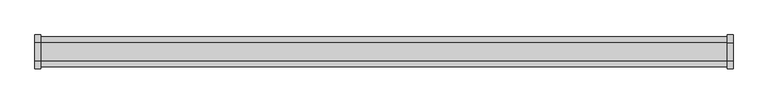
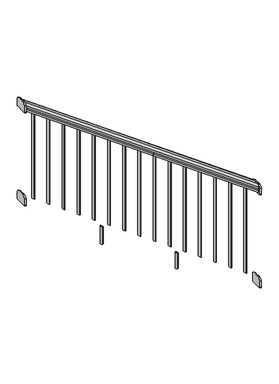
"""IFC4 building model written with IfcOpenShell, lengths in millimetres: railing geometry, NewTechWood - Westminister Gray."""

from ifc_helpers import new_model, si_unit, frame, origin, place, context, project, spatial, polyline, circle_curve, ellipse_curve, source, transform, mapped, element, save
from ifc_brep_helpers import plane_surface, cylinder_surface, revolved_surface, advanced_brep


def railing_2b7e7999(model_context):
    return source(origin(), model_context, "Body", "AdvancedBrep", [
        advanced_brep(
        [(-13507.1266255, 8333.6419817, 2521.0981601), (-13507.1266255, 8333.6419817, 2470.0210563), (-13507.1266255, 8330.0919817, 2465.6486493), (-13507.1266255, 8248.4019817, 2465.6486493), (-13507.1266255, 8244.8519817, 2470.0210563), (-13507.1266255, 8244.8519817, 2521.0981601), (-13507.1266255, 8264.5319817, 2545.3373065), (-13507.1266255, 8313.9619817, 2545.3373065), (-13492.1266255, 8313.9619817, 2534.5519407), (-13492.1266255, 8264.5319817, 2534.5519407), (-13492.1266255, 8244.8519817, 2510.3127942), (-13492.1266255, 8244.8519817, 2459.2356904), (-13492.1266255, 8248.4019817, 2454.8632834), (-13492.1266255, 8330.0919817, 2454.8632834), (-13492.1266255, 8333.6419817, 2459.2356904), (-13492.1266255, 8333.6419817, 2510.3127942)],
        [
            (0, 1),
            (1, 2, ellipse_curve(frame((-13507.1266255, 8330.0919817, 2470.0210563), z_axis=(-1.0, 0.0, 0.0), x_axis=(0.0, 0.0, -1.0)), 4.372407, 3.55)),
            (2, 3),
            (3, 4, ellipse_curve(frame((-13507.1266255, 8248.4019817, 2470.0210563), z_axis=(-1.0, 0.0, 0.0), x_axis=(0.0, 0.0, -1.0)), 4.372407, 3.55)),
            (4, 5),
            (5, 6, ellipse_curve(frame((-13507.1266255, 8264.5319817, 2521.0981601), z_axis=(-1.0, 0.0, 0.0), x_axis=(0.0, 0.0, -1.0)), 24.2391464, 19.68)),
            (6, 7),
            (7, 0, ellipse_curve(frame((-13507.1266255, 8313.9619817, 2521.0981601), z_axis=(-1.0, 0.0, 0.0), x_axis=(0.0, 0.0, -1.0)), 24.2391464, 19.68)),
            (8, 9),
            (9, 10, ellipse_curve(frame((-13492.1266255, 8264.5319817, 2510.3127942), z_axis=(1.0, 0.0, 0.0), x_axis=(0.0, 0.0, -1.0)), 24.2391464, 19.68)),
            (10, 11),
            (11, 12, ellipse_curve(frame((-13492.1266255, 8248.4019817, 2459.2356904), z_axis=(1.0, 0.0, 0.0), x_axis=(0.0, 0.0, -1.0)), 4.372407, 3.55)),
            (12, 13),
            (13, 14, ellipse_curve(frame((-13492.1266255, 8330.0919817, 2459.2356904), z_axis=(1.0, 0.0, 0.0), x_axis=(0.0, 0.0, -1.0)), 4.372407, 3.55)),
            (14, 15),
            (15, 8, ellipse_curve(frame((-13492.1266255, 8313.9619817, 2510.3127942), z_axis=(1.0, 0.0, 0.0), x_axis=(0.0, 0.0, -1.0)), 24.2391464, 19.68)),
            (15, 0),
            (7, 8),
            (14, 1),
            (13, 2),
            (12, 3),
            (11, 4),
            (10, 5),
            (9, 6),
        ],
        [
            plane_surface(frame((-13507.1266255, 8415.6017144, 1697.2264201), z_axis=(-1.0, 0.0, 0.0), x_axis=(0.0, -1.0, 0.0))),
            plane_surface(frame((-13492.1266255, 8415.6017144, 2679.4572038), z_axis=(1.0, 0.0, 0.0), x_axis=(0.0, -1.0, 0.0))),
            cylinder_surface(frame((-13456.5393171, 8313.9619817, 2484.7246515), z_axis=(0.8119097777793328, 0.0, -0.5837829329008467), x_axis=(-0.5837829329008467, 0.0, -0.8119097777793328)), 19.68),
            plane_surface(frame((-13456.5393171, 8333.6419817, 2484.7246515), z_axis=(0.0, 1.0, 0.0), x_axis=(-0.8119097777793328, 0.0, 0.5837829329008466))),
            cylinder_surface(frame((-13480.7487953, 8330.0919817, 2451.054753), z_axis=(0.8119097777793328, 0.0, -0.5837829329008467), x_axis=(-0.5837829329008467, 0.0, -0.8119097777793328)), 3.55),
            plane_surface(frame((-13482.8212247, 8330.0919817, 2448.1724733), z_axis=(-0.5837829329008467, 0.0, -0.8119097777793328), x_axis=(-0.8119097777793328, 0.0, 0.5837829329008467))),
            cylinder_surface(frame((-13480.7487953, 8248.4019817, 2451.054753), z_axis=(0.8119097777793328, 0.0, -0.5837829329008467), x_axis=(-0.5837829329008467, 0.0, -0.8119097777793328)), 3.55),
            plane_surface(frame((-13480.7487953, 8244.8519817, 2451.054753), z_axis=(0.0, -1.0, 0.0), x_axis=(-0.8119097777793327, 0.0, 0.5837829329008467))),
            cylinder_surface(frame((-13456.5393171, 8264.5319817, 2484.7246515), z_axis=(0.8119097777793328, 0.0, -0.5837829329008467), x_axis=(-0.5837829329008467, 0.0, -0.8119097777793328)), 19.68),
            plane_surface(frame((-13445.050469, 8264.5319817, 2500.7030359), z_axis=(0.5837829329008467, 0.0, 0.8119097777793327), x_axis=(-0.8119097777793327, 0.0, 0.5837829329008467))),
        ],
        [
            (0, [[1, 2, 3, 4, 5, 6, 7, 8]]),
            (1, [[9, 10, 11, 12, 13, 14, 15, 16]]),
            (2, [[-16, 17, -8, 18]]),
            (3, [[-15, 19, -1, -17]]),
            (4, [[-14, 20, -2, -19]]),
            (5, [[-13, 21, -3, -20]]),
            (6, [[-12, 22, -4, -21]]),
            (7, [[-11, 23, -5, -22]]),
            (8, [[-10, 24, -6, -23]]),
            (9, [[-7, -24, -9, -18]]),
        ],
    ),
        advanced_brep(
        [(-15306.1266255, 8313.9619817, 3838.8621846), (-15306.1266255, 8264.5319817, 3838.8621846), (-15306.1266255, 8244.8519817, 3814.6230381), (-15306.1266255, 8244.8519817, 3763.5459343), (-15306.1266255, 8248.4019817, 3759.1735273), (-15306.1266255, 8330.0919817, 3759.1735273), (-15306.1266255, 8333.6419817, 3763.5459343), (-15306.1266255, 8333.6419817, 3814.6230381), (-15321.1266255, 8333.6419817, 3825.408404), (-15321.1266255, 8333.6419817, 3774.3313002), (-15321.1266255, 8330.0919817, 3769.9588932), (-15321.1266255, 8248.4019817, 3769.9588932), (-15321.1266255, 8244.8519817, 3774.3313002), (-15321.1266255, 8244.8519817, 3825.408404), (-15321.1266255, 8264.5319817, 3849.6475504), (-15321.1266255, 8313.9619817, 3849.6475504)],
        [
            (0, 1),
            (1, 2, ellipse_curve(frame((-15306.1266255, 8264.5319817, 3814.6230381), z_axis=(1.0, 0.0, 0.0), x_axis=(0.0, 0.0, -1.0)), 24.2391464, 19.68)),
            (2, 3),
            (3, 4, ellipse_curve(frame((-15306.1266255, 8248.4019817, 3763.5459343), z_axis=(1.0, 0.0, 0.0), x_axis=(0.0, 0.0, -1.0)), 4.372407, 3.55)),
            (4, 5),
            (5, 6, ellipse_curve(frame((-15306.1266255, 8330.0919817, 3763.5459343), z_axis=(1.0, 0.0, 0.0), x_axis=(0.0, 0.0, -1.0)), 4.372407, 3.55)),
            (6, 7),
            (7, 0, ellipse_curve(frame((-15306.1266255, 8313.9619817, 3814.6230381), z_axis=(1.0, 0.0, 0.0), x_axis=(0.0, 0.0, -1.0)), 24.2391464, 19.68)),
            (8, 9),
            (9, 10, ellipse_curve(frame((-15321.1266255, 8330.0919817, 3774.3313002), z_axis=(-1.0, 0.0, 0.0), x_axis=(0.0, 0.0, -1.0)), 4.372407, 3.55)),
            (10, 11),
            (11, 12, ellipse_curve(frame((-15321.1266255, 8248.4019817, 3774.3313002), z_axis=(-1.0, 0.0, 0.0), x_axis=(0.0, 0.0, -1.0)), 4.372407, 3.55)),
            (12, 13),
            (13, 14, ellipse_curve(frame((-15321.1266255, 8264.5319817, 3825.408404), z_axis=(-1.0, 0.0, 0.0), x_axis=(0.0, 0.0, -1.0)), 24.2391464, 19.68)),
            (14, 15),
            (15, 8, ellipse_curve(frame((-15321.1266255, 8313.9619817, 3825.408404), z_axis=(-1.0, 0.0, 0.0), x_axis=(0.0, 0.0, -1.0)), 24.2391464, 19.68)),
            (7, 8),
            (15, 0),
            (6, 9),
            (5, 10),
            (4, 11),
            (3, 12),
            (2, 13),
            (1, 14),
        ],
        [
            plane_surface(frame((-15306.1266255, 8415.6017144, 3922.1842505), z_axis=(1.0, 0.0, 0.0), x_axis=(0.0, -1.0, 0.0))),
            plane_surface(frame((-15321.1266255, 8415.6017144, 2939.9534667), z_axis=(-1.0, 0.0, 0.0), x_axis=(0.0, -1.0, 0.0))),
            cylinder_surface(frame((-13456.5393171, 8313.9619817, 2484.7246515), z_axis=(0.8119097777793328, 0.0, -0.5837829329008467), x_axis=(-0.5837829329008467, 0.0, -0.8119097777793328)), 19.68),
            plane_surface(frame((-13456.5393171, 8333.6419817, 2484.7246515), z_axis=(0.0, 1.0, 0.0), x_axis=(-0.8119097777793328, 0.0, 0.5837829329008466))),
            cylinder_surface(frame((-13480.7487953, 8330.0919817, 2451.054753), z_axis=(0.8119097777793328, 0.0, -0.5837829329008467), x_axis=(-0.5837829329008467, 0.0, -0.8119097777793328)), 3.55),
            plane_surface(frame((-13482.8212247, 8330.0919817, 2448.1724733), z_axis=(-0.5837829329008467, 0.0, -0.8119097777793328), x_axis=(-0.8119097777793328, 0.0, 0.5837829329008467))),
            cylinder_surface(frame((-13480.7487953, 8248.4019817, 2451.054753), z_axis=(0.8119097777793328, 0.0, -0.5837829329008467), x_axis=(-0.5837829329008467, 0.0, -0.8119097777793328)), 3.55),
            plane_surface(frame((-13480.7487953, 8244.8519817, 2451.054753), z_axis=(0.0, -1.0, 0.0), x_axis=(-0.8119097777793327, 0.0, 0.5837829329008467))),
            cylinder_surface(frame((-13456.5393171, 8264.5319817, 2484.7246515), z_axis=(0.8119097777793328, 0.0, -0.5837829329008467), x_axis=(-0.5837829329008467, 0.0, -0.8119097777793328)), 19.68),
            plane_surface(frame((-13445.050469, 8264.5319817, 2500.7030359), z_axis=(0.5837829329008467, 0.0, 0.8119097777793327), x_axis=(-0.8119097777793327, 0.0, 0.5837829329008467))),
        ],
        [
            (0, [[1, 2, 3, 4, 5, 6, 7, 8]]),
            (1, [[9, 10, 11, 12, 13, 14, 15, 16]]),
            (2, [[-8, 17, -16, 18]]),
            (3, [[-7, 19, -9, -17]]),
            (4, [[-6, 20, -10, -19]]),
            (5, [[-5, 21, -11, -20]]),
            (6, [[-4, 22, -12, -21]]),
            (7, [[-3, 23, -13, -22]]),
            (8, [[-2, 24, -14, -23]]),
            (9, [[-15, -24, -1, -18]]),
        ],
    ),
        advanced_brep(
        [(-13507.1266255, 8313.9619817, 1786.3373065), (-13507.1266255, 8333.6419817, 1762.0981601), (-13507.1266255, 8333.6419817, 1711.0210563), (-13507.1266255, 8330.0919817, 1706.6486493), (-13507.1266255, 8248.4019817, 1706.6486493), (-13507.1266255, 8244.8519817, 1711.0210563), (-13507.1266255, 8244.8519817, 1762.0981601), (-13507.1266255, 8264.5319817, 1786.3373065), (-13492.1266255, 8264.5319817, 1775.5519407), (-13492.1266255, 8244.8519817, 1751.3127942), (-13492.1266255, 8244.8519817, 1700.2356904), (-13492.1266255, 8248.4019817, 1695.8632834), (-13492.1266255, 8330.0919817, 1695.8632834), (-13492.1266255, 8333.6419817, 1700.2356904), (-13492.1266255, 8333.6419817, 1751.3127942), (-13492.1266255, 8313.9619817, 1775.5519407)],
        [
            (0, 1, ellipse_curve(frame((-13507.1266255, 8313.9619817, 1762.0981601), z_axis=(-1.0, 0.0, 0.0), x_axis=(0.0, 0.0, -1.0)), 24.2391464, 19.68)),
            (1, 2),
            (2, 3, ellipse_curve(frame((-13507.1266255, 8330.0919817, 1711.0210563), z_axis=(-1.0, 0.0, 0.0), x_axis=(0.0, 0.0, -1.0)), 4.372407, 3.55)),
            (3, 4),
            (4, 5, ellipse_curve(frame((-13507.1266255, 8248.4019817, 1711.0210563), z_axis=(-1.0, 0.0, 0.0), x_axis=(0.0, 0.0, -1.0)), 4.372407, 3.55)),
            (5, 6),
            (6, 7, ellipse_curve(frame((-13507.1266255, 8264.5319817, 1762.0981601), z_axis=(-1.0, 0.0, 0.0), x_axis=(0.0, 0.0, -1.0)), 24.2391464, 19.68)),
            (7, 0),
            (8, 9, ellipse_curve(frame((-13492.1266255, 8264.5319817, 1751.3127942), z_axis=(1.0, 0.0, 0.0), x_axis=(0.0, 0.0, -1.0)), 24.2391464, 19.68)),
            (9, 10),
            (10, 11, ellipse_curve(frame((-13492.1266255, 8248.4019817, 1700.2356904), z_axis=(1.0, 0.0, 0.0), x_axis=(0.0, 0.0, -1.0)), 4.372407, 3.55)),
            (11, 12),
            (12, 13, ellipse_curve(frame((-13492.1266255, 8330.0919817, 1700.2356904), z_axis=(1.0, 0.0, 0.0), x_axis=(0.0, 0.0, -1.0)), 4.372407, 3.55)),
            (13, 14),
            (14, 15, ellipse_curve(frame((-13492.1266255, 8313.9619817, 1751.3127942), z_axis=(1.0, 0.0, 0.0), x_axis=(0.0, 0.0, -1.0)), 24.2391464, 19.68)),
            (15, 8),
            (15, 0),
            (7, 8),
            (14, 1),
            (13, 2),
            (12, 3),
            (11, 4),
            (10, 5),
            (9, 6),
        ],
        [
            plane_surface(frame((-13507.1266255, 8415.6017144, 1697.2264201), z_axis=(-1.0, 0.0, 0.0), x_axis=(0.0, -1.0, 0.0))),
            plane_surface(frame((-13492.1266255, 8415.6017144, 2679.4572038), z_axis=(1.0, 0.0, 0.0), x_axis=(0.0, -1.0, 0.0))),
            plane_surface(frame((-13447.5313883, 8264.5319817, 1743.4868775), z_axis=(0.5837829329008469, 0.0, 0.8119097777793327), x_axis=(-0.8119097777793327, 0.0, 0.5837829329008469))),
            cylinder_surface(frame((-13459.0202364, 8313.9619817, 1727.508493), z_axis=(0.8119097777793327, 0.0, -0.5837829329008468), x_axis=(-0.5837829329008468, 0.0, -0.8119097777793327)), 19.68),
            plane_surface(frame((-13459.0202364, 8333.6419817, 1727.508493), z_axis=(0.0, 1.0000000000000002, 0.0), x_axis=(-0.8119097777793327, 0.0, 0.5837829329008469))),
            cylinder_surface(frame((-13483.2297147, 8330.0919817, 1693.8385946), z_axis=(0.8119097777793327, 0.0, -0.5837829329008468), x_axis=(-0.5837829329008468, 0.0, -0.8119097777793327)), 3.55),
            plane_surface(frame((-13485.3021441, 8330.0919817, 1690.9563148), z_axis=(-0.5837829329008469, 0.0, -0.8119097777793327), x_axis=(-0.8119097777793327, 0.0, 0.5837829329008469))),
            cylinder_surface(frame((-13483.2297147, 8248.4019817, 1693.8385946), z_axis=(0.8119097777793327, 0.0, -0.5837829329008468), x_axis=(-0.5837829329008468, 0.0, -0.8119097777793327)), 3.55),
            plane_surface(frame((-13483.2297147, 8244.8519817, 1693.8385946), z_axis=(0.0, -1.0000000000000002, 0.0), x_axis=(-0.8119097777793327, 0.0, 0.5837829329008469))),
            cylinder_surface(frame((-13459.0202364, 8264.5319817, 1727.508493), z_axis=(0.8119097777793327, 0.0, -0.5837829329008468), x_axis=(-0.5837829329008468, 0.0, -0.8119097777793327)), 19.68),
        ],
        [
            (0, [[1, 2, 3, 4, 5, 6, 7, 8]]),
            (1, [[9, 10, 11, 12, 13, 14, 15, 16]]),
            (2, [[-16, 17, -8, 18]]),
            (3, [[-15, 19, -1, -17]]),
            (4, [[-14, 20, -2, -19]]),
            (5, [[-13, 21, -3, -20]]),
            (6, [[-12, 22, -4, -21]]),
            (7, [[-11, 23, -5, -22]]),
            (8, [[-10, 24, -6, -23]]),
            (9, [[-7, -24, -9, -18]]),
        ],
    ),
        advanced_brep(
        [(-15306.1266255, 8264.5319817, 3079.8621846), (-15306.1266255, 8244.8519817, 3055.6230381), (-15306.1266255, 8244.8519817, 3004.5459343), (-15306.1266255, 8248.4019817, 3000.1735273), (-15306.1266255, 8330.0919817, 3000.1735273), (-15306.1266255, 8333.6419817, 3004.5459343), (-15306.1266255, 8333.6419817, 3055.6230381), (-15306.1266255, 8313.9619817, 3079.8621846), (-15321.1266255, 8313.9619817, 3090.6475504), (-15321.1266255, 8333.6419817, 3066.408404), (-15321.1266255, 8333.6419817, 3015.3313002), (-15321.1266255, 8330.0919817, 3010.9588932), (-15321.1266255, 8248.4019817, 3010.9588932), (-15321.1266255, 8244.8519817, 3015.3313002), (-15321.1266255, 8244.8519817, 3066.408404), (-15321.1266255, 8264.5319817, 3090.6475504)],
        [
            (0, 1, ellipse_curve(frame((-15306.1266255, 8264.5319817, 3055.6230381), z_axis=(1.0, 0.0, 0.0), x_axis=(0.0, 0.0, -1.0)), 24.2391464, 19.68)),
            (1, 2),
            (2, 3, ellipse_curve(frame((-15306.1266255, 8248.4019817, 3004.5459343), z_axis=(1.0, 0.0, 0.0), x_axis=(0.0, 0.0, -1.0)), 4.372407, 3.55)),
            (3, 4),
            (4, 5, ellipse_curve(frame((-15306.1266255, 8330.0919817, 3004.5459343), z_axis=(1.0, 0.0, 0.0), x_axis=(0.0, 0.0, -1.0)), 4.372407, 3.55)),
            (5, 6),
            (6, 7, ellipse_curve(frame((-15306.1266255, 8313.9619817, 3055.6230381), z_axis=(1.0, 0.0, 0.0), x_axis=(0.0, 0.0, -1.0)), 24.2391464, 19.68)),
            (7, 0),
            (8, 9, ellipse_curve(frame((-15321.1266255, 8313.9619817, 3066.408404), z_axis=(-1.0, 0.0, 0.0), x_axis=(0.0, 0.0, -1.0)), 24.2391464, 19.68)),
            (9, 10),
            (10, 11, ellipse_curve(frame((-15321.1266255, 8330.0919817, 3015.3313002), z_axis=(-1.0, 0.0, 0.0), x_axis=(0.0, 0.0, -1.0)), 4.372407, 3.55)),
            (11, 12),
            (12, 13, ellipse_curve(frame((-15321.1266255, 8248.4019817, 3015.3313002), z_axis=(-1.0, 0.0, 0.0), x_axis=(0.0, 0.0, -1.0)), 4.372407, 3.55)),
            (13, 14),
            (14, 15, ellipse_curve(frame((-15321.1266255, 8264.5319817, 3066.408404), z_axis=(-1.0, 0.0, 0.0), x_axis=(0.0, 0.0, -1.0)), 24.2391464, 19.68)),
            (15, 8),
            (7, 8),
            (15, 0),
            (6, 9),
            (5, 10),
            (4, 11),
            (3, 12),
            (2, 13),
            (1, 14),
        ],
        [
            plane_surface(frame((-15306.1266255, 8415.6017144, 3922.1842505), z_axis=(1.0, 0.0, 0.0), x_axis=(0.0, -1.0, 0.0))),
            plane_surface(frame((-15321.1266255, 8415.6017144, 2939.9534667), z_axis=(-1.0, 0.0, 0.0), x_axis=(0.0, -1.0, 0.0))),
            plane_surface(frame((-13447.5313883, 8264.5319817, 1743.4868775), z_axis=(0.5837829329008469, 0.0, 0.8119097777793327), x_axis=(-0.8119097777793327, 0.0, 0.5837829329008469))),
            cylinder_surface(frame((-13459.0202364, 8313.9619817, 1727.508493), z_axis=(0.8119097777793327, 0.0, -0.5837829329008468), x_axis=(-0.5837829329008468, 0.0, -0.8119097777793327)), 19.68),
            plane_surface(frame((-13459.0202364, 8333.6419817, 1727.508493), z_axis=(0.0, 1.0000000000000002, 0.0), x_axis=(-0.8119097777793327, 0.0, 0.5837829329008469))),
            cylinder_surface(frame((-13483.2297147, 8330.0919817, 1693.8385946), z_axis=(0.8119097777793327, 0.0, -0.5837829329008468), x_axis=(-0.5837829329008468, 0.0, -0.8119097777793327)), 3.55),
            plane_surface(frame((-13485.3021441, 8330.0919817, 1690.9563148), z_axis=(-0.5837829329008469, 0.0, -0.8119097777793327), x_axis=(-0.8119097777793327, 0.0, 0.5837829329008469))),
            cylinder_surface(frame((-13483.2297147, 8248.4019817, 1693.8385946), z_axis=(0.8119097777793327, 0.0, -0.5837829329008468), x_axis=(-0.5837829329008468, 0.0, -0.8119097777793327)), 3.55),
            plane_surface(frame((-13483.2297147, 8244.8519817, 1693.8385946), z_axis=(0.0, -1.0000000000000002, 0.0), x_axis=(-0.8119097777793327, 0.0, 0.5837829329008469))),
            cylinder_surface(frame((-13459.0202364, 8264.5319817, 1727.508493), z_axis=(0.8119097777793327, 0.0, -0.5837829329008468), x_axis=(-0.5837829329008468, 0.0, -0.8119097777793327)), 19.68),
        ],
        [
            (0, [[1, 2, 3, 4, 5, 6, 7, 8]]),
            (1, [[9, 10, 11, 12, 13, 14, 15, 16]]),
            (2, [[-8, 17, -16, 18]]),
            (3, [[-7, 19, -9, -17]]),
            (4, [[-6, 20, -10, -19]]),
            (5, [[-5, 21, -11, -20]]),
            (6, [[-4, 22, -12, -21]]),
            (7, [[-3, 23, -13, -22]]),
            (8, [[-2, 24, -14, -23]]),
            (9, [[-15, -24, -1, -18]]),
        ],
    ),
        advanced_brep(
        [(-14117.1266579, 8279.7469817, 2178.4771208), (-14107.6266579, 8289.2469817, 2171.6463891), (-14117.1266579, 8298.7469817, 2178.4771208), (-14117.1266579, 8298.7469817, 2051.7726459), (-14117.1266579, 8279.7469817, 2051.7726459), (-14107.6266579, 8289.2469817, 2051.7726459)],
        [
            (0, 1, ellipse_curve(frame((-14117.1266579, 8289.2469817, 2178.4771208), z_axis=(0.5837829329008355, 0.0, 0.8119097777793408), x_axis=(-0.8119097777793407, 0.0, 0.5837829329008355)), 11.7008075, 9.5)),
            (1, 2, ellipse_curve(frame((-14117.1266579, 8289.2469817, 2178.4771208), z_axis=(0.5837829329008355, 0.0, 0.8119097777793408), x_axis=(-0.8119097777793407, 0.0, 0.5837829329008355)), 11.7008075, 9.5)),
            (2, 0, ellipse_curve(frame((-14117.1266579, 8289.2469817, 2178.4771208), z_axis=(0.5837829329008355, 0.0, 0.8119097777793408), x_axis=(-0.8119097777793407, 0.0, 0.5837829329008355)), 11.7008075, 9.5)),
            (2, 3),
            (3, 4, circle_curve(frame((-14117.1266579, 8289.2469817, 2051.7726459), z_axis=(0.0, 0.0, 1.0), x_axis=(0.0, 1.0, 0.0)), 9.5)),
            (4, 0),
            (4, 5, circle_curve(frame((-14117.1266579, 8289.2469817, 2051.7726459), z_axis=(0.0, 0.0, 1.0), x_axis=(0.0, 1.0, 0.0)), 9.5)),
            (5, 3, circle_curve(frame((-14117.1266579, 8289.2469817, 2051.7726459), z_axis=(0.0, 0.0, 1.0), x_axis=(0.0, 1.0, 0.0)), 9.5)),
        ],
        [
            plane_surface(frame((-14705.626593, 8439.2469817, 2601.6229278), z_axis=(0.5837829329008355, 0.0, 0.8119097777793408), x_axis=(0.0, -1.0, 0.0))),
            cylinder_surface(frame((-14117.1266579, 8289.2469817, 949.9254898), z_axis=(0.0, 0.0, 1.0), x_axis=(0.0, 1.0, 0.0)), 9.5),
            plane_surface(frame((-14107.6266579, 8439.2469817, 2051.7726459), z_axis=(0.0, 0.0, -1.0), x_axis=(0.0, -1.0, 0.0))),
        ],
        [
            (0, [[1, 2, 3]]),
            (1, [[-3, 4, 5, 6]]),
            (1, [[7, 8, -4, -2, -1, -6]]),
            (2, [[-8, -7, -5]]),
        ],
    ),
        advanced_brep(
        [(-14696.126593, 8279.7469817, 2594.7921961), (-14696.126593, 8298.7469817, 2594.7921961), (-14705.626593, 8289.2469817, 2601.6229278), (-14696.126593, 8298.7469817, 2453.7209705), (-14705.626593, 8289.2469817, 2453.7209705), (-14696.126593, 8279.7469817, 2453.7209705)],
        [
            (0, 1, ellipse_curve(frame((-14696.126593, 8289.2469817, 2594.7921961), z_axis=(0.5837829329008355, 0.0, 0.8119097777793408), x_axis=(-0.8119097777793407, 0.0, 0.5837829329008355)), 11.7008075, 9.5)),
            (1, 2, ellipse_curve(frame((-14696.126593, 8289.2469817, 2594.7921961), z_axis=(0.5837829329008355, 0.0, 0.8119097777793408), x_axis=(-0.8119097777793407, 0.0, 0.5837829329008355)), 11.7008075, 9.5)),
            (2, 0, ellipse_curve(frame((-14696.126593, 8289.2469817, 2594.7921961), z_axis=(0.5837829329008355, 0.0, 0.8119097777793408), x_axis=(-0.8119097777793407, 0.0, 0.5837829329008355)), 11.7008075, 9.5)),
            (1, 3),
            (3, 4, circle_curve(frame((-14696.126593, 8289.2469817, 2453.7209705), z_axis=(0.0, 0.0, 1.0), x_axis=(0.0, 1.0, 0.0)), 9.5)),
            (4, 5, circle_curve(frame((-14696.126593, 8289.2469817, 2453.7209705), z_axis=(0.0, 0.0, 1.0), x_axis=(0.0, 1.0, 0.0)), 9.5)),
            (5, 0),
            (5, 3, circle_curve(frame((-14696.126593, 8289.2469817, 2453.7209705), z_axis=(0.0, 0.0, 1.0), x_axis=(0.0, 1.0, 0.0)), 9.5)),
        ],
        [
            plane_surface(frame((-14705.626593, 8439.2469817, 2601.6229278), z_axis=(0.5837829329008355, 0.0, 0.8119097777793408), x_axis=(0.0, -1.0, 0.0))),
            cylinder_surface(frame((-14696.126593, 8289.2469817, 2265.5054169), z_axis=(0.0, 0.0, 1.0), x_axis=(0.0, 1.0, 0.0)), 9.5),
            plane_surface(frame((-14686.126593, 8439.2469817, 2453.7209705), z_axis=(0.0, 0.0, -1.0), x_axis=(0.0, -1.0, 0.0))),
        ],
        [
            (0, [[1, 2, 3]]),
            (1, [[-3, -2, 4, 5, 6, 7]]),
            (1, [[8, -4, -1, -7]]),
            (2, [[-5, -8, -6]]),
        ],
    ),
        advanced_brep(
        [(-14055.8837683, 8279.6469817, 2872.4127479), (-14055.8837683, 8298.8469817, 2872.4127479), (-14055.8837683, 8298.8469817, 2168.3127479), (-14055.8837683, 8279.6469817, 2168.3127479)],
        [
            (0, 1, ellipse_curve(frame((-14055.8837683, 8289.2469817, 2872.4127479), z_axis=(0.5837829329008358, 0.0, 0.8119097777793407), x_axis=(-0.8119097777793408, 0.0, 0.5837829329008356)), 11.8239739, 9.6)),
            (1, 0, ellipse_curve(frame((-14055.8837683, 8289.2469817, 2872.4127479), z_axis=(0.5837829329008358, 0.0, 0.8119097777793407), x_axis=(-0.8119097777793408, 0.0, 0.5837829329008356)), 11.8239739, 9.6)),
            (2, 3, ellipse_curve(frame((-14055.8837683, 8289.2469817, 2168.3127479), z_axis=(-0.5837829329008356, 0.0, -0.8119097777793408), x_axis=(-0.8119097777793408, 0.0, 0.5837829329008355)), 11.8239739, 9.6)),
            (3, 2, ellipse_curve(frame((-14055.8837683, 8289.2469817, 2168.3127479), z_axis=(-0.5837829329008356, 0.0, -0.8119097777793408), x_axis=(-0.8119097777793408, 0.0, 0.5837829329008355)), 11.8239739, 9.6)),
            (1, 2),
            (3, 0),
        ],
        [
            plane_surface(frame((-15321.1266255, 8539.2469817, 3782.1532218), z_axis=(0.5837829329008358, 0.0, 0.8119097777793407), x_axis=(0.0, -1.0, 0.0))),
            plane_surface(frame((-13492.1266255, 8539.2469817, 1762.957612), z_axis=(-0.5837829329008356, 0.0, -0.8119097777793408), x_axis=(0.0, -1.0, 0.0))),
            cylinder_surface(frame((-14055.8837683, 8289.2469817, 2265.5054169), z_axis=(0.0, 0.0, 1.0), x_axis=(0.0, 1.0, 0.0)), 9.6),
        ],
        [
            (0, [[1, 2]]),
            (1, [[3, 4]]),
            (2, [[-2, 5, -4, 6]]),
            (2, [[-3, -5, -1, -6]]),
        ],
    ),
        advanced_brep(
        [(-14172.798054, 8279.6469817, 2956.4769709), (-14172.798054, 8298.8469817, 2956.4769709), (-14172.798054, 8298.8469817, 2252.3769709), (-14172.798054, 8279.6469817, 2252.3769709)],
        [
            (0, 1, ellipse_curve(frame((-14172.798054, 8289.2469817, 2956.4769709), z_axis=(0.5837829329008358, 0.0, 0.8119097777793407), x_axis=(-0.8119097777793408, 0.0, 0.5837829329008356)), 11.8239739, 9.6)),
            (1, 0, ellipse_curve(frame((-14172.798054, 8289.2469817, 2956.4769709), z_axis=(0.5837829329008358, 0.0, 0.8119097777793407), x_axis=(-0.8119097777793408, 0.0, 0.5837829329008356)), 11.8239739, 9.6)),
            (2, 3, ellipse_curve(frame((-14172.798054, 8289.2469817, 2252.3769709), z_axis=(-0.5837829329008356, 0.0, -0.8119097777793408), x_axis=(-0.8119097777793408, 0.0, 0.5837829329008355)), 11.8239739, 9.6)),
            (3, 2, ellipse_curve(frame((-14172.798054, 8289.2469817, 2252.3769709), z_axis=(-0.5837829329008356, 0.0, -0.8119097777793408), x_axis=(-0.8119097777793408, 0.0, 0.5837829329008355)), 11.8239739, 9.6)),
            (1, 2),
            (3, 0),
        ],
        [
            plane_surface(frame((-15321.1266255, 8539.2469817, 3782.1532218), z_axis=(0.5837829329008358, 0.0, 0.8119097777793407), x_axis=(0.0, -1.0, 0.0))),
            plane_surface(frame((-13492.1266255, 8539.2469817, 1762.957612), z_axis=(-0.5837829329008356, 0.0, -0.8119097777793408), x_axis=(0.0, -1.0, 0.0))),
            cylinder_surface(frame((-14172.798054, 8289.2469817, 2265.5054169), z_axis=(0.0, 0.0, 1.0), x_axis=(0.0, 1.0, 0.0)), 9.6),
        ],
        [
            (0, [[1, 2]]),
            (1, [[3, 4]]),
            (2, [[-2, 5, -4, 6]]),
            (2, [[-3, -5, -1, -6]]),
        ],
    ),
        advanced_brep(
        [(-14289.7123397, 8279.6469817, 3040.5411939), (-14289.7123397, 8298.8469817, 3040.5411939), (-14289.7123397, 8298.8469817, 2336.4411939), (-14289.7123397, 8279.6469817, 2336.4411939)],
        [
            (0, 1, ellipse_curve(frame((-14289.7123397, 8289.2469817, 3040.5411939), z_axis=(0.5837829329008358, 0.0, 0.8119097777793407), x_axis=(-0.8119097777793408, 0.0, 0.5837829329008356)), 11.8239739, 9.6)),
            (1, 0, ellipse_curve(frame((-14289.7123397, 8289.2469817, 3040.5411939), z_axis=(0.5837829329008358, 0.0, 0.8119097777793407), x_axis=(-0.8119097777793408, 0.0, 0.5837829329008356)), 11.8239739, 9.6)),
            (2, 3, ellipse_curve(frame((-14289.7123397, 8289.2469817, 2336.4411939), z_axis=(-0.5837829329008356, 0.0, -0.8119097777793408), x_axis=(-0.8119097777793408, 0.0, 0.5837829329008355)), 11.8239739, 9.6)),
            (3, 2, ellipse_curve(frame((-14289.7123397, 8289.2469817, 2336.4411939), z_axis=(-0.5837829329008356, 0.0, -0.8119097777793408), x_axis=(-0.8119097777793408, 0.0, 0.5837829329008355)), 11.8239739, 9.6)),
            (1, 2),
            (3, 0),
        ],
        [
            plane_surface(frame((-15321.1266255, 8539.2469817, 3782.1532218), z_axis=(0.5837829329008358, 0.0, 0.8119097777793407), x_axis=(0.0, -1.0, 0.0))),
            plane_surface(frame((-13492.1266255, 8539.2469817, 1762.957612), z_axis=(-0.5837829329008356, 0.0, -0.8119097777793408), x_axis=(0.0, -1.0, 0.0))),
            cylinder_surface(frame((-14289.7123397, 8289.2469817, 2265.5054169), z_axis=(0.0, 0.0, 1.0), x_axis=(0.0, 1.0, 0.0)), 9.6),
        ],
        [
            (0, [[1, 2]]),
            (1, [[3, 4]]),
            (2, [[-2, 5, -4, 6]]),
            (2, [[-3, -5, -1, -6]]),
        ],
    ),
        advanced_brep(
        [(-14406.6266255, 8279.6469817, 3124.6054169), (-14406.6266255, 8298.8469817, 3124.6054169), (-14406.6266255, 8298.8469817, 2420.5054169), (-14406.6266255, 8279.6469817, 2420.5054169)],
        [
            (0, 1, ellipse_curve(frame((-14406.6266255, 8289.2469817, 3124.6054169), z_axis=(0.5837829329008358, 0.0, 0.8119097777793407), x_axis=(-0.8119097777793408, 0.0, 0.5837829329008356)), 11.8239739, 9.6)),
            (1, 0, ellipse_curve(frame((-14406.6266255, 8289.2469817, 3124.6054169), z_axis=(0.5837829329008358, 0.0, 0.8119097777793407), x_axis=(-0.8119097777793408, 0.0, 0.5837829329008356)), 11.8239739, 9.6)),
            (2, 3, ellipse_curve(frame((-14406.6266255, 8289.2469817, 2420.5054169), z_axis=(-0.5837829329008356, 0.0, -0.8119097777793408), x_axis=(-0.8119097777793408, 0.0, 0.5837829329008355)), 11.8239739, 9.6)),
            (3, 2, ellipse_curve(frame((-14406.6266255, 8289.2469817, 2420.5054169), z_axis=(-0.5837829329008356, 0.0, -0.8119097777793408), x_axis=(-0.8119097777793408, 0.0, 0.5837829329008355)), 11.8239739, 9.6)),
            (1, 2),
            (3, 0),
        ],
        [
            plane_surface(frame((-15321.1266255, 8539.2469817, 3782.1532218), z_axis=(0.5837829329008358, 0.0, 0.8119097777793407), x_axis=(0.0, -1.0, 0.0))),
            plane_surface(frame((-13492.1266255, 8539.2469817, 1762.957612), z_axis=(-0.5837829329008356, 0.0, -0.8119097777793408), x_axis=(0.0, -1.0, 0.0))),
            cylinder_surface(frame((-14406.6266255, 8289.2469817, 2265.5054169), z_axis=(0.0, 0.0, 1.0), x_axis=(0.0, 1.0, 0.0)), 9.6),
        ],
        [
            (0, [[1, 2]]),
            (1, [[3, 4]]),
            (2, [[-2, 5, -4, 6]]),
            (2, [[-3, -5, -1, -6]]),
        ],
    ),
        advanced_brep(
        [(-14523.5409112, 8279.6469817, 3208.6696399), (-14523.5409112, 8298.8469817, 3208.6696399), (-14523.5409112, 8298.8469817, 2504.5696399), (-14523.5409112, 8279.6469817, 2504.5696399)],
        [
            (0, 1, ellipse_curve(frame((-14523.5409112, 8289.2469817, 3208.6696399), z_axis=(0.5837829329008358, 0.0, 0.8119097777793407), x_axis=(-0.8119097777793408, 0.0, 0.5837829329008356)), 11.8239739, 9.6)),
            (1, 0, ellipse_curve(frame((-14523.5409112, 8289.2469817, 3208.6696399), z_axis=(0.5837829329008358, 0.0, 0.8119097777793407), x_axis=(-0.8119097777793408, 0.0, 0.5837829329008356)), 11.8239739, 9.6)),
            (2, 3, ellipse_curve(frame((-14523.5409112, 8289.2469817, 2504.5696399), z_axis=(-0.5837829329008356, 0.0, -0.8119097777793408), x_axis=(-0.8119097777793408, 0.0, 0.5837829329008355)), 11.8239739, 9.6)),
            (3, 2, ellipse_curve(frame((-14523.5409112, 8289.2469817, 2504.5696399), z_axis=(-0.5837829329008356, 0.0, -0.8119097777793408), x_axis=(-0.8119097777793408, 0.0, 0.5837829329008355)), 11.8239739, 9.6)),
            (1, 2),
            (3, 0),
        ],
        [
            plane_surface(frame((-15321.1266255, 8539.2469817, 3782.1532218), z_axis=(0.5837829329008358, 0.0, 0.8119097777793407), x_axis=(0.0, -1.0, 0.0))),
            plane_surface(frame((-13492.1266255, 8539.2469817, 1762.957612), z_axis=(-0.5837829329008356, 0.0, -0.8119097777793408), x_axis=(0.0, -1.0, 0.0))),
            cylinder_surface(frame((-14523.5409112, 8289.2469817, 2265.5054169), z_axis=(0.0, 0.0, 1.0), x_axis=(0.0, 1.0, 0.0)), 9.6),
        ],
        [
            (0, [[1, 2]]),
            (1, [[3, 4]]),
            (2, [[-2, 5, -4, 6]]),
            (2, [[-3, -5, -1, -6]]),
        ],
    ),
        advanced_brep(
        [(-14640.4551969, 8279.6469817, 3292.7338629), (-14640.4551969, 8298.8469817, 3292.7338629), (-14640.4551969, 8298.8469817, 2588.6338629), (-14640.4551969, 8279.6469817, 2588.6338629)],
        [
            (0, 1, ellipse_curve(frame((-14640.4551969, 8289.2469817, 3292.7338629), z_axis=(0.5837829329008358, 0.0, 0.8119097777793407), x_axis=(-0.8119097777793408, 0.0, 0.5837829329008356)), 11.8239739, 9.6)),
            (1, 0, ellipse_curve(frame((-14640.4551969, 8289.2469817, 3292.7338629), z_axis=(0.5837829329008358, 0.0, 0.8119097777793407), x_axis=(-0.8119097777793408, 0.0, 0.5837829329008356)), 11.8239739, 9.6)),
            (2, 3, ellipse_curve(frame((-14640.4551969, 8289.2469817, 2588.6338629), z_axis=(-0.5837829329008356, 0.0, -0.8119097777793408), x_axis=(-0.8119097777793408, 0.0, 0.5837829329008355)), 11.8239739, 9.6)),
            (3, 2, ellipse_curve(frame((-14640.4551969, 8289.2469817, 2588.6338629), z_axis=(-0.5837829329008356, 0.0, -0.8119097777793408), x_axis=(-0.8119097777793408, 0.0, 0.5837829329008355)), 11.8239739, 9.6)),
            (1, 2),
            (3, 0),
        ],
        [
            plane_surface(frame((-15321.1266255, 8539.2469817, 3782.1532218), z_axis=(0.5837829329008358, 0.0, 0.8119097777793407), x_axis=(0.0, -1.0, 0.0))),
            plane_surface(frame((-13492.1266255, 8539.2469817, 1762.957612), z_axis=(-0.5837829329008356, 0.0, -0.8119097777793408), x_axis=(0.0, -1.0, 0.0))),
            cylinder_surface(frame((-14640.4551969, 8289.2469817, 2265.5054169), z_axis=(0.0, 0.0, 1.0), x_axis=(0.0, 1.0, 0.0)), 9.6),
        ],
        [
            (0, [[1, 2]]),
            (1, [[3, 4]]),
            (2, [[-2, 5, -4, 6]]),
            (2, [[-3, -5, -1, -6]]),
        ],
    ),
        advanced_brep(
        [(-14757.3694826, 8279.6469817, 3376.7980859), (-14757.3694826, 8298.8469817, 3376.7980859), (-14757.3694826, 8298.8469817, 2672.6980859), (-14757.3694826, 8279.6469817, 2672.6980859)],
        [
            (0, 1, ellipse_curve(frame((-14757.3694826, 8289.2469817, 3376.7980859), z_axis=(0.5837829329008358, 0.0, 0.8119097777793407), x_axis=(-0.8119097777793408, 0.0, 0.5837829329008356)), 11.8239739, 9.6)),
            (1, 0, ellipse_curve(frame((-14757.3694826, 8289.2469817, 3376.7980859), z_axis=(0.5837829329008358, 0.0, 0.8119097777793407), x_axis=(-0.8119097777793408, 0.0, 0.5837829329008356)), 11.8239739, 9.6)),
            (2, 3, ellipse_curve(frame((-14757.3694826, 8289.2469817, 2672.6980859), z_axis=(-0.5837829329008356, 0.0, -0.8119097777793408), x_axis=(-0.8119097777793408, 0.0, 0.5837829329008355)), 11.8239739, 9.6)),
            (3, 2, ellipse_curve(frame((-14757.3694826, 8289.2469817, 2672.6980859), z_axis=(-0.5837829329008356, 0.0, -0.8119097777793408), x_axis=(-0.8119097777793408, 0.0, 0.5837829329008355)), 11.8239739, 9.6)),
            (1, 2),
            (3, 0),
        ],
        [
            plane_surface(frame((-15321.1266255, 8539.2469817, 3782.1532218), z_axis=(0.5837829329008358, 0.0, 0.8119097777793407), x_axis=(0.0, -1.0, 0.0))),
            plane_surface(frame((-13492.1266255, 8539.2469817, 1762.957612), z_axis=(-0.5837829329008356, 0.0, -0.8119097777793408), x_axis=(0.0, -1.0, 0.0))),
            cylinder_surface(frame((-14757.3694826, 8289.2469817, 2265.5054169), z_axis=(0.0, 0.0, 1.0), x_axis=(0.0, 1.0, 0.0)), 9.6),
        ],
        [
            (0, [[1, 2]]),
            (1, [[3, 4]]),
            (2, [[-2, 5, -4, 6]]),
            (2, [[-3, -5, -1, -6]]),
        ],
    ),
        advanced_brep(
        [(-13588.2266255, 8279.6469817, 2536.1558559), (-13588.2266255, 8298.8469817, 2536.1558559), (-13588.2266255, 8298.8469817, 1832.0558559), (-13588.2266255, 8279.6469817, 1832.0558559)],
        [
            (0, 1, ellipse_curve(frame((-13588.2266255, 8289.2469817, 2536.1558559), z_axis=(0.5837829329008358, 0.0, 0.8119097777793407), x_axis=(-0.8119097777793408, 0.0, 0.5837829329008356)), 11.8239739, 9.6)),
            (1, 0, ellipse_curve(frame((-13588.2266255, 8289.2469817, 2536.1558559), z_axis=(0.5837829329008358, 0.0, 0.8119097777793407), x_axis=(-0.8119097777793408, 0.0, 0.5837829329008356)), 11.8239739, 9.6)),
            (2, 3, ellipse_curve(frame((-13588.2266255, 8289.2469817, 1832.0558559), z_axis=(-0.5837829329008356, 0.0, -0.8119097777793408), x_axis=(-0.8119097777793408, 0.0, 0.5837829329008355)), 11.8239739, 9.6)),
            (3, 2, ellipse_curve(frame((-13588.2266255, 8289.2469817, 1832.0558559), z_axis=(-0.5837829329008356, 0.0, -0.8119097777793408), x_axis=(-0.8119097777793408, 0.0, 0.5837829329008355)), 11.8239739, 9.6)),
            (1, 2),
            (3, 0),
        ],
        [
            plane_surface(frame((-15321.1266255, 8539.2469817, 3782.1532218), z_axis=(0.5837829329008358, 0.0, 0.8119097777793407), x_axis=(0.0, -1.0, 0.0))),
            plane_surface(frame((-13492.1266255, 8539.2469817, 1762.957612), z_axis=(-0.5837829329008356, 0.0, -0.8119097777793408), x_axis=(0.0, -1.0, 0.0))),
            cylinder_surface(frame((-13588.2266255, 8289.2469817, 949.9254898), z_axis=(0.0, 0.0, 1.0), x_axis=(0.0, 1.0, 0.0)), 9.6),
        ],
        [
            (0, [[1, 2]]),
            (1, [[3, 4]]),
            (2, [[-2, 5, -4, 6]]),
            (2, [[-3, -5, -1, -6]]),
        ],
    ),
        advanced_brep(
        [(-13705.1409112, 8279.6469817, 2620.2200789), (-13705.1409112, 8298.8469817, 2620.2200789), (-13705.1409112, 8298.8469817, 1916.1200789), (-13705.1409112, 8279.6469817, 1916.1200789)],
        [
            (0, 1, ellipse_curve(frame((-13705.1409112, 8289.2469817, 2620.2200789), z_axis=(0.5837829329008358, 0.0, 0.8119097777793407), x_axis=(-0.8119097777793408, 0.0, 0.5837829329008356)), 11.8239739, 9.6)),
            (1, 0, ellipse_curve(frame((-13705.1409112, 8289.2469817, 2620.2200789), z_axis=(0.5837829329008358, 0.0, 0.8119097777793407), x_axis=(-0.8119097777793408, 0.0, 0.5837829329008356)), 11.8239739, 9.6)),
            (2, 3, ellipse_curve(frame((-13705.1409112, 8289.2469817, 1916.1200789), z_axis=(-0.5837829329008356, 0.0, -0.8119097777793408), x_axis=(-0.8119097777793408, 0.0, 0.5837829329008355)), 11.8239739, 9.6)),
            (3, 2, ellipse_curve(frame((-13705.1409112, 8289.2469817, 1916.1200789), z_axis=(-0.5837829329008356, 0.0, -0.8119097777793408), x_axis=(-0.8119097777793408, 0.0, 0.5837829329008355)), 11.8239739, 9.6)),
            (1, 2),
            (3, 0),
        ],
        [
            plane_surface(frame((-15321.1266255, 8539.2469817, 3782.1532218), z_axis=(0.5837829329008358, 0.0, 0.8119097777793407), x_axis=(0.0, -1.0, 0.0))),
            plane_surface(frame((-13492.1266255, 8539.2469817, 1762.957612), z_axis=(-0.5837829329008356, 0.0, -0.8119097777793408), x_axis=(0.0, -1.0, 0.0))),
            cylinder_surface(frame((-13705.1409112, 8289.2469817, 2265.5054169), z_axis=(0.0, 0.0, 1.0), x_axis=(0.0, 1.0, 0.0)), 9.6),
        ],
        [
            (0, [[1, 2]]),
            (1, [[3, 4]]),
            (2, [[-2, 5, -4, 6]]),
            (2, [[-3, -5, -1, -6]]),
        ],
    ),
        advanced_brep(
        [(-13822.0551969, 8279.6469817, 2704.2843019), (-13822.0551969, 8298.8469817, 2704.2843019), (-13822.0551969, 8298.8469817, 2000.1843019), (-13822.0551969, 8279.6469817, 2000.1843019)],
        [
            (0, 1, ellipse_curve(frame((-13822.0551969, 8289.2469817, 2704.2843019), z_axis=(0.5837829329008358, 0.0, 0.8119097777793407), x_axis=(-0.8119097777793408, 0.0, 0.5837829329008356)), 11.8239739, 9.6)),
            (1, 0, ellipse_curve(frame((-13822.0551969, 8289.2469817, 2704.2843019), z_axis=(0.5837829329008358, 0.0, 0.8119097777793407), x_axis=(-0.8119097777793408, 0.0, 0.5837829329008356)), 11.8239739, 9.6)),
            (2, 3, ellipse_curve(frame((-13822.0551969, 8289.2469817, 2000.1843019), z_axis=(-0.5837829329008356, 0.0, -0.8119097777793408), x_axis=(-0.8119097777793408, 0.0, 0.5837829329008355)), 11.8239739, 9.6)),
            (3, 2, ellipse_curve(frame((-13822.0551969, 8289.2469817, 2000.1843019), z_axis=(-0.5837829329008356, 0.0, -0.8119097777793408), x_axis=(-0.8119097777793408, 0.0, 0.5837829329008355)), 11.8239739, 9.6)),
            (1, 2),
            (3, 0),
        ],
        [
            plane_surface(frame((-15321.1266255, 8539.2469817, 3782.1532218), z_axis=(0.5837829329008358, 0.0, 0.8119097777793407), x_axis=(0.0, -1.0, 0.0))),
            plane_surface(frame((-13492.1266255, 8539.2469817, 1762.957612), z_axis=(-0.5837829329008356, 0.0, -0.8119097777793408), x_axis=(0.0, -1.0, 0.0))),
            cylinder_surface(frame((-13822.0551969, 8289.2469817, 2265.5054169), z_axis=(0.0, 0.0, 1.0), x_axis=(0.0, 1.0, 0.0)), 9.6),
        ],
        [
            (0, [[1, 2]]),
            (1, [[3, 4]]),
            (2, [[-2, 5, -4, 6]]),
            (2, [[-3, -5, -1, -6]]),
        ],
    ),
        advanced_brep(
        [(-13938.9694826, 8279.6469817, 2788.3485249), (-13938.9694826, 8298.8469817, 2788.3485249), (-13938.9694826, 8298.8469817, 2084.2485249), (-13938.9694826, 8279.6469817, 2084.2485249)],
        [
            (0, 1, ellipse_curve(frame((-13938.9694826, 8289.2469817, 2788.3485249), z_axis=(0.5837829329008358, 0.0, 0.8119097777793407), x_axis=(-0.8119097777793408, 0.0, 0.5837829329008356)), 11.8239739, 9.6)),
            (1, 0, ellipse_curve(frame((-13938.9694826, 8289.2469817, 2788.3485249), z_axis=(0.5837829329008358, 0.0, 0.8119097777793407), x_axis=(-0.8119097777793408, 0.0, 0.5837829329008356)), 11.8239739, 9.6)),
            (2, 3, ellipse_curve(frame((-13938.9694826, 8289.2469817, 2084.2485249), z_axis=(-0.5837829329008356, 0.0, -0.8119097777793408), x_axis=(-0.8119097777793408, 0.0, 0.5837829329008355)), 11.8239739, 9.6)),
            (3, 2, ellipse_curve(frame((-13938.9694826, 8289.2469817, 2084.2485249), z_axis=(-0.5837829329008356, 0.0, -0.8119097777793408), x_axis=(-0.8119097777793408, 0.0, 0.5837829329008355)), 11.8239739, 9.6)),
            (1, 2),
            (3, 0),
        ],
        [
            plane_surface(frame((-15321.1266255, 8539.2469817, 3782.1532218), z_axis=(0.5837829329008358, 0.0, 0.8119097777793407), x_axis=(0.0, -1.0, 0.0))),
            plane_surface(frame((-13492.1266255, 8539.2469817, 1762.957612), z_axis=(-0.5837829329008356, 0.0, -0.8119097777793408), x_axis=(0.0, -1.0, 0.0))),
            cylinder_surface(frame((-13938.9694826, 8289.2469817, 2265.5054169), z_axis=(0.0, 0.0, 1.0), x_axis=(0.0, 1.0, 0.0)), 9.6),
        ],
        [
            (0, [[1, 2]]),
            (1, [[3, 4]]),
            (2, [[-2, 5, -4, 6]]),
            (2, [[-3, -5, -1, -6]]),
        ],
    ),
        advanced_brep(
        [(-14874.2837683, 8279.6469817, 3460.8623089), (-14874.2837683, 8298.8469817, 3460.8623089), (-14874.2837683, 8298.8469817, 2756.7623089), (-14874.2837683, 8279.6469817, 2756.7623089)],
        [
            (0, 1, ellipse_curve(frame((-14874.2837683, 8289.2469817, 3460.8623089), z_axis=(0.5837829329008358, 0.0, 0.8119097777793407), x_axis=(-0.8119097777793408, 0.0, 0.5837829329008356)), 11.8239739, 9.6)),
            (1, 0, ellipse_curve(frame((-14874.2837683, 8289.2469817, 3460.8623089), z_axis=(0.5837829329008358, 0.0, 0.8119097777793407), x_axis=(-0.8119097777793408, 0.0, 0.5837829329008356)), 11.8239739, 9.6)),
            (2, 3, ellipse_curve(frame((-14874.2837683, 8289.2469817, 2756.7623089), z_axis=(-0.5837829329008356, 0.0, -0.8119097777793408), x_axis=(-0.8119097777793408, 0.0, 0.5837829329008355)), 11.8239739, 9.6)),
            (3, 2, ellipse_curve(frame((-14874.2837683, 8289.2469817, 2756.7623089), z_axis=(-0.5837829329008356, 0.0, -0.8119097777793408), x_axis=(-0.8119097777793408, 0.0, 0.5837829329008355)), 11.8239739, 9.6)),
            (1, 2),
            (3, 0),
        ],
        [
            plane_surface(frame((-15321.1266255, 8539.2469817, 3782.1532218), z_axis=(0.5837829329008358, 0.0, 0.8119097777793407), x_axis=(0.0, -1.0, 0.0))),
            plane_surface(frame((-13492.1266255, 8539.2469817, 1762.957612), z_axis=(-0.5837829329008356, 0.0, -0.8119097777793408), x_axis=(0.0, -1.0, 0.0))),
            cylinder_surface(frame((-14874.2837683, 8289.2469817, 2265.5054169), z_axis=(0.0, 0.0, 1.0), x_axis=(0.0, 1.0, 0.0)), 9.6),
        ],
        [
            (0, [[1, 2]]),
            (1, [[3, 4]]),
            (2, [[-2, 5, -4, 6]]),
            (2, [[-3, -5, -1, -6]]),
        ],
    ),
        advanced_brep(
        [(-14991.198054, 8279.6469817, 3544.9265319), (-14991.198054, 8298.8469817, 3544.9265319), (-14991.198054, 8298.8469817, 2840.8265319), (-14991.198054, 8279.6469817, 2840.8265319)],
        [
            (0, 1, ellipse_curve(frame((-14991.198054, 8289.2469817, 3544.9265319), z_axis=(0.5837829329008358, 0.0, 0.8119097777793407), x_axis=(-0.8119097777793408, 0.0, 0.5837829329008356)), 11.8239739, 9.6)),
            (1, 0, ellipse_curve(frame((-14991.198054, 8289.2469817, 3544.9265319), z_axis=(0.5837829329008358, 0.0, 0.8119097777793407), x_axis=(-0.8119097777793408, 0.0, 0.5837829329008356)), 11.8239739, 9.6)),
            (2, 3, ellipse_curve(frame((-14991.198054, 8289.2469817, 2840.8265319), z_axis=(-0.5837829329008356, 0.0, -0.8119097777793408), x_axis=(-0.8119097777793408, 0.0, 0.5837829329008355)), 11.8239739, 9.6)),
            (3, 2, ellipse_curve(frame((-14991.198054, 8289.2469817, 2840.8265319), z_axis=(-0.5837829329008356, 0.0, -0.8119097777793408), x_axis=(-0.8119097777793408, 0.0, 0.5837829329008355)), 11.8239739, 9.6)),
            (1, 2),
            (3, 0),
        ],
        [
            plane_surface(frame((-15321.1266255, 8539.2469817, 3782.1532218), z_axis=(0.5837829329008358, 0.0, 0.8119097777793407), x_axis=(0.0, -1.0, 0.0))),
            plane_surface(frame((-13492.1266255, 8539.2469817, 1762.957612), z_axis=(-0.5837829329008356, 0.0, -0.8119097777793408), x_axis=(0.0, -1.0, 0.0))),
            cylinder_surface(frame((-14991.198054, 8289.2469817, 2265.5054169), z_axis=(0.0, 0.0, 1.0), x_axis=(0.0, 1.0, 0.0)), 9.6),
        ],
        [
            (0, [[1, 2]]),
            (1, [[3, 4]]),
            (2, [[-2, 5, -4, 6]]),
            (2, [[-3, -5, -1, -6]]),
        ],
    ),
        advanced_brep(
        [(-15108.1123397, 8279.6469817, 3628.9907549), (-15108.1123397, 8298.8469817, 3628.9907549), (-15108.1123397, 8298.8469817, 2924.8907549), (-15108.1123397, 8279.6469817, 2924.8907549)],
        [
            (0, 1, ellipse_curve(frame((-15108.1123397, 8289.2469817, 3628.9907549), z_axis=(0.5837829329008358, 0.0, 0.8119097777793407), x_axis=(-0.8119097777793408, 0.0, 0.5837829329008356)), 11.8239739, 9.6)),
            (1, 0, ellipse_curve(frame((-15108.1123397, 8289.2469817, 3628.9907549), z_axis=(0.5837829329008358, 0.0, 0.8119097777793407), x_axis=(-0.8119097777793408, 0.0, 0.5837829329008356)), 11.8239739, 9.6)),
            (2, 3, ellipse_curve(frame((-15108.1123397, 8289.2469817, 2924.8907549), z_axis=(-0.5837829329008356, 0.0, -0.8119097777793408), x_axis=(-0.8119097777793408, 0.0, 0.5837829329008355)), 11.8239739, 9.6)),
            (3, 2, ellipse_curve(frame((-15108.1123397, 8289.2469817, 2924.8907549), z_axis=(-0.5837829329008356, 0.0, -0.8119097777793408), x_axis=(-0.8119097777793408, 0.0, 0.5837829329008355)), 11.8239739, 9.6)),
            (1, 2),
            (3, 0),
        ],
        [
            plane_surface(frame((-15321.1266255, 8539.2469817, 3782.1532218), z_axis=(0.5837829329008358, 0.0, 0.8119097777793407), x_axis=(0.0, -1.0, 0.0))),
            plane_surface(frame((-13492.1266255, 8539.2469817, 1762.957612), z_axis=(-0.5837829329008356, 0.0, -0.8119097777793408), x_axis=(0.0, -1.0, 0.0))),
            cylinder_surface(frame((-15108.1123397, 8289.2469817, 2265.5054169), z_axis=(0.0, 0.0, 1.0), x_axis=(0.0, 1.0, 0.0)), 9.6),
        ],
        [
            (0, [[1, 2]]),
            (1, [[3, 4]]),
            (2, [[-2, 5, -4, 6]]),
            (2, [[-3, -5, -1, -6]]),
        ],
    ),
        advanced_brep(
        [(-15225.0266255, 8279.6469817, 3713.0549779), (-15225.0266255, 8298.8469817, 3713.0549779), (-15225.0266255, 8298.8469817, 3008.9549779), (-15225.0266255, 8279.6469817, 3008.9549779)],
        [
            (0, 1, ellipse_curve(frame((-15225.0266255, 8289.2469817, 3713.0549779), z_axis=(0.5837829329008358, 0.0, 0.8119097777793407), x_axis=(-0.8119097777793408, 0.0, 0.5837829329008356)), 11.8239739, 9.6)),
            (1, 0, ellipse_curve(frame((-15225.0266255, 8289.2469817, 3713.0549779), z_axis=(0.5837829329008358, 0.0, 0.8119097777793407), x_axis=(-0.8119097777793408, 0.0, 0.5837829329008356)), 11.8239739, 9.6)),
            (2, 3, ellipse_curve(frame((-15225.0266255, 8289.2469817, 3008.9549779), z_axis=(-0.5837829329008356, 0.0, -0.8119097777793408), x_axis=(-0.8119097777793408, 0.0, 0.5837829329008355)), 11.8239739, 9.6)),
            (3, 2, ellipse_curve(frame((-15225.0266255, 8289.2469817, 3008.9549779), z_axis=(-0.5837829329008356, 0.0, -0.8119097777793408), x_axis=(-0.8119097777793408, 0.0, 0.5837829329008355)), 11.8239739, 9.6)),
            (1, 2),
            (3, 0),
        ],
        [
            plane_surface(frame((-15321.1266255, 8539.2469817, 3782.1532218), z_axis=(0.5837829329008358, 0.0, 0.8119097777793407), x_axis=(0.0, -1.0, 0.0))),
            plane_surface(frame((-13492.1266255, 8539.2469817, 1762.957612), z_axis=(-0.5837829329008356, 0.0, -0.8119097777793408), x_axis=(0.0, -1.0, 0.0))),
            cylinder_surface(frame((-15225.0266255, 8289.2469817, 2265.5054169), z_axis=(0.0, 0.0, 1.0), x_axis=(0.0, 1.0, 0.0)), 9.6),
        ],
        [
            (0, [[1, 2]]),
            (1, [[3, 4]]),
            (2, [[-2, 5, -4, 6]]),
            (2, [[-3, -5, -1, -6]]),
        ],
    ),
        advanced_brep(
        [(-13507.1266255, 8311.4293699, 2471.3341733), (-13507.1266255, 8328.1685291, 2491.9511921), (-13507.1266255, 8328.1685291, 2503.7413637), (-13507.1266255, 8328.6570478, 2520.4764927), (-13507.1266255, 8313.0884425, 2539.6517825), (-13507.1266255, 8265.4055209, 2539.6517825), (-13507.1266255, 8249.8369156, 2520.4764927), (-13507.1266255, 8250.3254343, 2503.7413637), (-13507.1266255, 8250.3254343, 2491.9511921), (-13507.1266255, 8267.0645935, 2471.3341733), (-15306.1266255, 8267.0645935, 3764.8590513), (-15306.1266255, 8250.3254343, 3785.4760701), (-15306.1266255, 8250.3254343, 3797.2662417), (-15306.1266255, 8249.8369156, 3814.0013707), (-15306.1266255, 8265.4055209, 3833.1766606), (-15306.1266255, 8313.0884425, 3833.1766606), (-15306.1266255, 8328.6570478, 3814.0013707), (-15306.1266255, 8328.1685291, 3797.2662417), (-15306.1266255, 8328.1685291, 3785.4760701), (-15306.1266255, 8311.4293699, 3764.8590513)],
        [
            (0, 1, ellipse_curve(frame((-13507.1266255, 8311.4293699, 2491.9511921), z_axis=(1.0, 0.0, 0.0), x_axis=(0.0, 0.0, -1.0)), 20.6170188, 16.7391591)),
            (1, 2),
            (2, 3, ellipse_curve(frame((-13507.1266255, 8341.0814856, 2511.5479207), z_axis=(-1.0, 0.0, 0.0), x_axis=(0.0, 0.0, 1.0)), 17.7170259, 14.3846265)),
            (3, 4, ellipse_curve(frame((-13507.1266255, 8313.0884425, 2520.4764927), z_axis=(1.0, 0.0, 0.0), x_axis=(0.0, 0.0, -1.0)), 19.1752899, 15.5686053)),
            (4, 5),
            (5, 6, ellipse_curve(frame((-13507.1266255, 8265.4055209, 2520.4764927), z_axis=(1.0, 0.0, 0.0), x_axis=(0.0, 0.0, -1.0)), 19.1752899, 15.5686053)),
            (6, 7, ellipse_curve(frame((-13507.1266255, 8237.4124778, 2511.5479207), z_axis=(-1.0, 0.0, 0.0), x_axis=(0.0, 0.0, 1.0)), 17.7170259, 14.3846265)),
            (7, 8),
            (8, 9, ellipse_curve(frame((-13507.1266255, 8267.0645935, 2491.9511921), z_axis=(1.0, 0.0, 0.0), x_axis=(0.0, 0.0, -1.0)), 20.6170188, 16.7391591)),
            (9, 0),
            (10, 11, ellipse_curve(frame((-15306.1266255, 8267.0645935, 3785.4760701), z_axis=(-1.0, 0.0, 0.0), x_axis=(0.0, 0.0, -1.0)), 20.6170188, 16.7391591)),
            (11, 12),
            (12, 13, ellipse_curve(frame((-15306.1266255, 8237.4124778, 3805.0727988), z_axis=(1.0, 0.0, 0.0), x_axis=(0.0, 0.0, 1.0)), 17.7170259, 14.3846265)),
            (13, 14, ellipse_curve(frame((-15306.1266255, 8265.4055209, 3814.0013707), z_axis=(-1.0, 0.0, 0.0), x_axis=(0.0, 0.0, -1.0)), 19.1752899, 15.5686053)),
            (14, 15),
            (15, 16, ellipse_curve(frame((-15306.1266255, 8313.0884425, 3814.0013707), z_axis=(-1.0, 0.0, 0.0), x_axis=(0.0, 0.0, -1.0)), 19.1752899, 15.5686053)),
            (16, 17, ellipse_curve(frame((-15306.1266255, 8341.0814856, 3805.0727988), z_axis=(1.0, 0.0, 0.0), x_axis=(0.0, 0.0, 1.0)), 17.7170259, 14.3846265)),
            (17, 18),
            (18, 19, ellipse_curve(frame((-15306.1266255, 8311.4293699, 3785.4760701), z_axis=(-1.0, 0.0, 0.0), x_axis=(0.0, 0.0, -1.0)), 20.6170188, 16.7391591)),
            (19, 10),
            (9, 10),
            (19, 0),
            (8, 11),
            (7, 12),
            (6, 13),
            (5, 14),
            (4, 15),
            (3, 16),
            (2, 17),
            (1, 18),
        ],
        [
            plane_surface(frame((-13507.1266255, 8415.6017144, 2628.6593724), z_axis=(1.0, 0.0, 0.0), x_axis=(0.0, -1.0, 0.0))),
            plane_surface(frame((-15306.1266255, 8415.6017144, 2990.7512981), z_axis=(-1.0, 0.0, 0.0), x_axis=(0.0, -1.0, 0.0))),
            plane_surface(frame((-13480.1264053, 8311.4293699, 2451.9203565), z_axis=(-0.5837829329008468, 0.0, -0.8119097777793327), x_axis=(-0.8119097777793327, 0.0, 0.5837829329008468))),
            cylinder_surface(frame((-13470.3543699, 8267.0645935, 2465.5110434), z_axis=(0.8119097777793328, 0.0, -0.5837829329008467), x_axis=(-0.5837829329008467, 0.0, -0.8119097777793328)), 16.7391591),
            plane_surface(frame((-13470.3543699, 8250.3254343, 2465.5110434), z_axis=(0.0, -1.0, 0.0), x_axis=(-0.8119097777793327, 0.0, 0.5837829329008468))),
            revolved_surface(polyline([(-15322.921624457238, 8237.4124778, 3799.4317868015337), (-13507.12662546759, 8237.4124778, 2493.830894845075)]), (-13461.0659307, 8237.4124778, 2478.4291577), (-0.8119097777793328, 0.0, 0.5837829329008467)),
            cylinder_surface(frame((-13456.8339744, 8265.4055209, 2484.3148499), z_axis=(0.8119097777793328, 0.0, -0.5837829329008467), x_axis=(-0.5837829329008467, 0.0, -0.8119097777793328)), 15.5686053),
            plane_surface(frame((-13447.7452883, 8265.4055209, 2496.9551528), z_axis=(0.5837829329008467, 0.0, 0.8119097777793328), x_axis=(-0.8119097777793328, 0.0, 0.5837829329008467))),
            cylinder_surface(frame((-13456.8339744, 8313.0884425, 2484.3148499), z_axis=(0.8119097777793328, 0.0, -0.5837829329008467), x_axis=(-0.5837829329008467, 0.0, -0.8119097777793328)), 15.5686053),
            revolved_surface(polyline([(-15322.921624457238, 8341.0814856, 3799.4317868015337), (-13507.12662546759, 8341.0814856, 2493.830894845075)]), (-13461.0659307, 8341.0814856, 2478.4291577), (-0.8119097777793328, 0.0, 0.5837829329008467)),
            plane_surface(frame((-13464.7660753, 8328.1685291, 2473.2830949), z_axis=(0.0, 1.0, 0.0), x_axis=(-0.8119097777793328, 0.0, 0.5837829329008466))),
            cylinder_surface(frame((-13470.3543699, 8311.4293699, 2465.5110434), z_axis=(0.8119097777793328, 0.0, -0.5837829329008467), x_axis=(-0.5837829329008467, 0.0, -0.8119097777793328)), 16.7391591),
        ],
        [
            (0, [[1, 2, 3, 4, 5, 6, 7, 8, 9, 10]]),
            (1, [[11, 12, 13, 14, 15, 16, 17, 18, 19, 20]]),
            (2, [[-10, 21, -20, 22]]),
            (3, [[-9, 23, -11, -21]]),
            (4, [[-8, 24, -12, -23]]),
            (5, [[-7, 25, -13, -24]]),
            (6, [[-6, 26, -14, -25]]),
            (7, [[-5, 27, -15, -26]]),
            (8, [[-4, 28, -16, -27]]),
            (9, [[-3, 29, -17, -28]]),
            (10, [[-2, 30, -18, -29]]),
            (11, [[-19, -30, -1, -22]]),
        ],
    ),
    ])


if __name__ == "__main__":
    model = new_model("IFC4")
    model_context = context("Model", 3, world=origin())
    ifc_project = project(units=[si_unit("LENGTHUNIT", "METRE", prefix="MILLI")], contexts=[model_context])
    site = spatial("IfcSite", under=ifc_project)
    building = spatial("IfcBuilding", under=site)
    placement = place(None, origin())
    railing_shape = railing_2b7e7999(model_context)
    element("IfcRailing", 1, ObjectType="NewTechWood - Westminister Gray", at=placement, inside=building, context=model_context, shape_type="MappedRepresentation", body=[
        mapped(railing_shape, transform((0.0, 0.0, 0.0), x_axis=(1.0, 0.0, 0.0), y_axis=(0.0, 1.0, 0.0), z_axis=(0.0, 0.0, 1.0))),
    ])
    save(model, "model.ifc")
